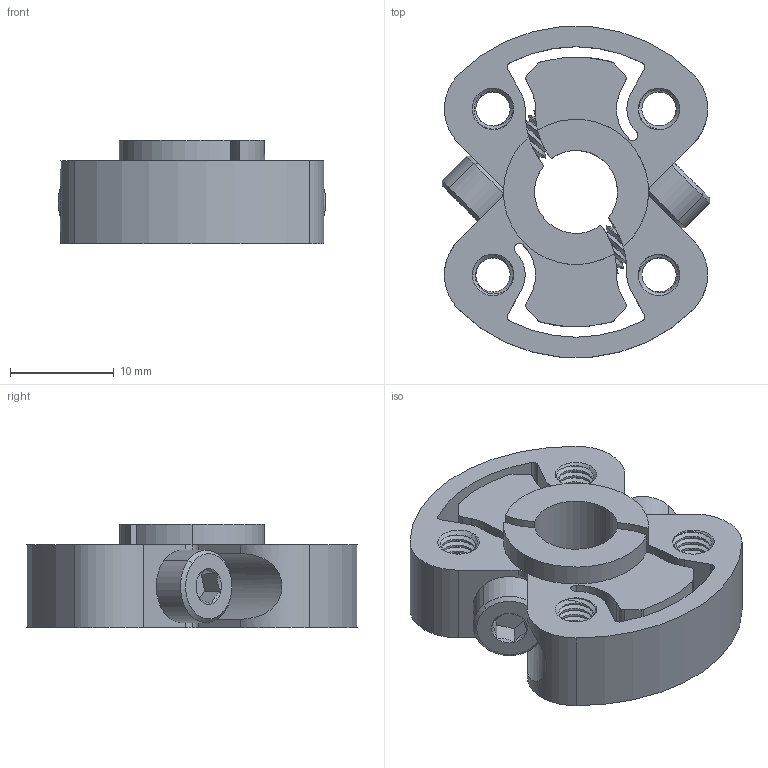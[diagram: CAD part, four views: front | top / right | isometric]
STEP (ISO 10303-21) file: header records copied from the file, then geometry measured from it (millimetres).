
FILE_DESCRIPTION (( 'STEP AP203' ), '1' );
FILE_NAME ('1309-0016-0008 assembly.STEP', '2020-11-18T16:37:17', ( '' ), ( '' ), 'SwSTEP 2.0', 'SolidWorks 2016', '' );
FILE_SCHEMA (( 'CONFIG_CONTROL_DESIGN' ));
Length unit declared in the file: millimetre
Products named in the file (3): 2800-0004-0014_90128A207; 1309-0016-0008 assembly; 1309-0016-0008
Assembly tree (3 placements, depth 2):
  1309-0016-0008 assembly
    1309-0016-0008
    2800-0004-0014_90128A207  x2
Bounding box: 25.79 x 31.88 x 10 mm (x, y, z)
Volume: 4129.9 mm3; surface area: 4952.3 mm2
Topology: 3 solids, 3 shells, 702 faces, 2033 edges, 1338 vertices
Faces by surface type: cylinder 580, cone 49, plane 43, bspline 30
Entity records: 53347 total; most frequent: CARTESIAN_POINT 39986, ORIENTED_EDGE 3476, DIRECTION 2064, EDGE_CURVE 1738, VERTEX_POINT 1147, AXIS2_PLACEMENT_3D 768, EDGE_LOOP 611, ADVANCED_FACE 594
